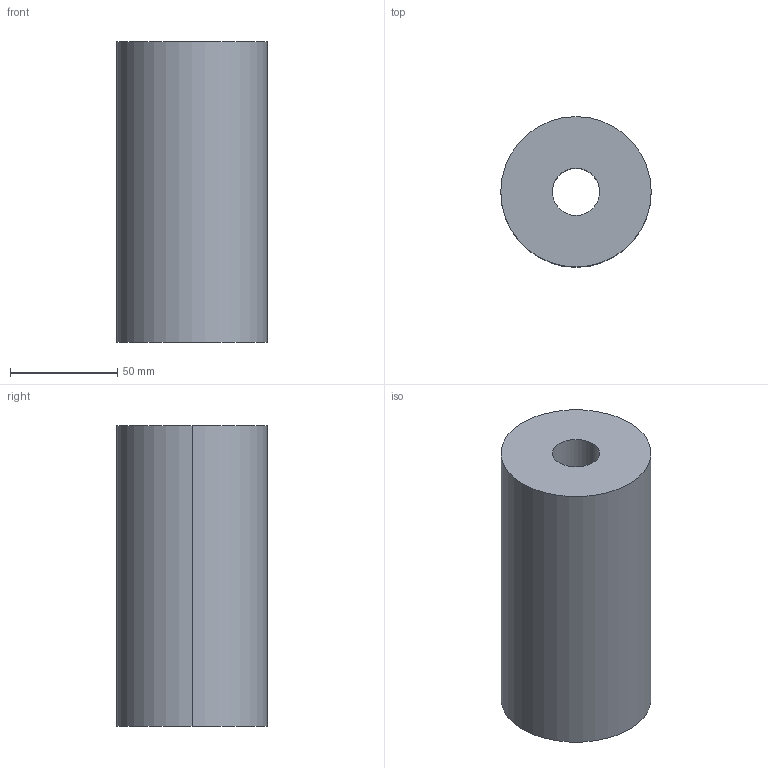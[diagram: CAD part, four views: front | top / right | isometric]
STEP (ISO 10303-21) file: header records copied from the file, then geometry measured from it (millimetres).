
FILE_DESCRIPTION(/* description */ (''),/* implementation_level */ '2;1');
FILE_NAME(/* name */ '3d_e7022140_03717_r00.stp',/* time_stamp */ '2011-01-10T14:15:49+09:00',/* author */ ('MISUMI'),/* organization */ (''),/* preprocessor_version */ 'ST-DEVELOPER v11',/* originating_system */ 'UGS - NX 5.0',/* authorisation */ '');
FILE_SCHEMA (('CONFIG_CONTROL_DESIGN'));
Length unit declared in the file: millimetre
Products named in the file (1): 3d_e7022140_03717_r00
Bounding box: 70 x 70 x 140 mm (x, y, z)
Volume: 485564.6 mm3; surface area: 47400.3 mm2
Topology: 1 solids, 1 shells, 6 faces, 12 edges, 8 vertices
Faces by surface type: cylinder 4, plane 2
Entity records: 254 total; most frequent: DIRECTION 34, CARTESIAN_POINT 27, ORIENTED_EDGE 24, AXIS2_PLACEMENT_3D 15, EDGE_CURVE 12, EDGE_LOOP 8, VERTEX_POINT 8, CIRCLE 8
